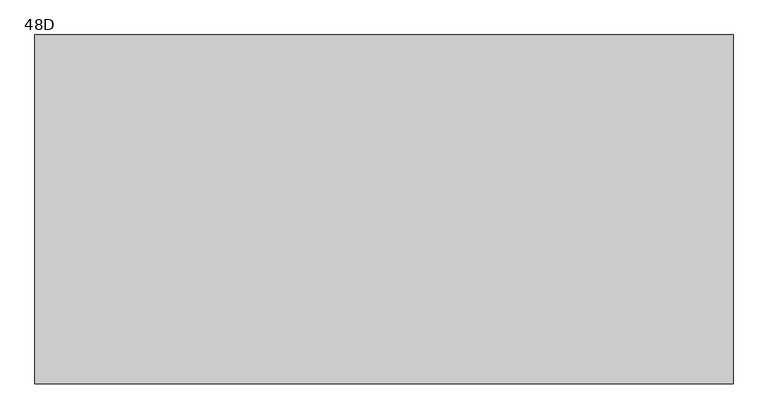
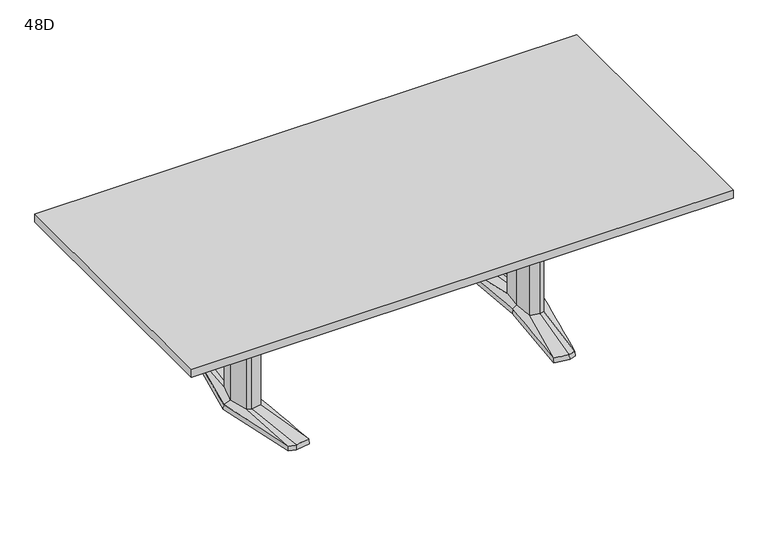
"""IFC4 building model written with IfcOpenShell, lengths in millimetres: furniture geometry, Coalesse_AM_Table_Conference_ETable2_Rectangular_96in_AluminiumBase : 48D."""

import ifcopenshell
import ifcopenshell.guid

model = None  # the IFC model being written
_history = None  # IfcOwnerHistory: only IFC2X3 demands one
_inside = {}  # id of a spatial element -> (the spatial element, [elements in it])
_under = {}  # id of a project, library or spatial element -> (it, [spatial elements below it])
_declared = {}  # id of a project -> (the project, [libraries it declares])
_typed = {}  # id of a type object -> (the type object, [elements of that type])
_made_of = {}  # id of a material, layer set ... -> (it, [elements and type objects made of it])


def new_model(schema):
    """Start an empty IFC model of exactly this schema.

    Asked for "IFC4X3", IfcOpenShell would pick the latest addendum, in which some entities
    have other attributes; the version numbers below select the first issue.
    IFC2X3 requires an IfcOwnerHistory on every rooted entity: one is made here for all.
    """
    global model, _history
    if schema == "IFC4X3":
        model = ifcopenshell.file(schema_version=(4, 3, 0, 0))
    else:
        model = ifcopenshell.file(schema=schema)
    _inside.clear()
    _under.clear()
    _declared.clear()
    _typed.clear()
    _made_of.clear()
    _history = None
    if model.schema == "IFC2X3":
        org = make("IfcOrganization", Name="unknown")
        user = make(
            "IfcPersonAndOrganization",
            ThePerson=make("IfcPerson", FamilyName="unknown"),
            TheOrganization=org,
        )
        app = make(
            "IfcApplication",
            ApplicationDeveloper=org,
            Version="unknown",
            ApplicationFullName="unknown",
            ApplicationIdentifier="unknown",
        )
        _history = make(
            "IfcOwnerHistory",
            OwningUser=user,
            OwningApplication=app,
            ChangeAction="ADDED",
            CreationDate=0,
        )
    return model


def make(cls, **values):
    """One entity of the class cls with the attributes given. An attribute that is None is left unset."""
    return model.create_entity(
        cls, **{name: value for name, value in values.items() if value is not None}
    )


def rooted(cls, **values):
    """An entity with a GlobalId (a new one), such as an element, a storey or a relation."""
    return make(cls, GlobalId=ifcopenshell.guid.new(), OwnerHistory=_history, **values)


def si_unit(unit_type, name, prefix=None):
    """IfcSIUnit, for example si_unit("LENGTHUNIT", "METRE", prefix="MILLI")."""
    return make("IfcSIUnit", UnitType=unit_type, Prefix=prefix, Name=name)


def assignment(units):
    """IfcUnitAssignment: the units of a project."""
    return None if units is None else make("IfcUnitAssignment", Units=units)


def point(xyz):
    """IfcCartesianPoint."""
    return None if xyz is None else make("IfcCartesianPoint", Coordinates=xyz)


def direction(xyz):
    """IfcDirection."""
    return None if xyz is None else make("IfcDirection", DirectionRatios=xyz)


def frame(location, z_axis=None, x_axis=None):
    """IfcAxis2Placement3D, a coordinate frame: its origin and axes. An axis left out is left unset."""
    return make(
        "IfcAxis2Placement3D",
        Location=point(location),
        Axis=direction(z_axis),
        RefDirection=direction(x_axis),
    )


def origin():
    """The frame at (0, 0, 0) with its axes left unset."""
    return frame((0.0, 0.0, 0.0))


def place(relative_to, where):
    """IfcLocalPlacement: puts the frame where relative to a parent placement (None: the world)."""
    return make(
        "IfcLocalPlacement", PlacementRelTo=relative_to, RelativePlacement=where
    )


def context(
    kind, dimensions, precision=None, world=None, true_north=None, identifier=None
):
    """IfcGeometricRepresentationContext, for example the 3D "Model" context."""
    return make(
        "IfcGeometricRepresentationContext",
        ContextIdentifier=identifier,
        ContextType=kind,
        CoordinateSpaceDimension=dimensions,
        Precision=precision,
        WorldCoordinateSystem=world,
        TrueNorth=true_north,
    )


def project(units=None, contexts=None):
    """IfcProject with its units and contexts."""
    return rooted(
        "IfcProject",
        Name="project",
        RepresentationContexts=contexts,
        UnitsInContext=assignment(units),
    )


def spatial(cls, under=None, at=None, **own):
    """A site, building, storey or space (cls), placed at a placement, below another one or the project."""
    s = rooted(cls, ObjectPlacement=at, **own)
    if under is not None:
        _under.setdefault(under.id(), (under, []))[1].append(s)
    return s


def polyline(points):
    """IfcPolyline through the points."""
    return make("IfcPolyline", Points=[point(p) for p in points])


def outline(outer, holes=None, kind="AREA"):
    """IfcArbitraryClosedProfileDef: a profile drawn as a closed curve; with holes, ...WithVoids."""
    if holes is None:
        return make("IfcArbitraryClosedProfileDef", ProfileType=kind, OuterCurve=outer)
    return make(
        "IfcArbitraryProfileDefWithVoids",
        ProfileType=kind,
        OuterCurve=outer,
        InnerCurves=holes,
    )


def extrude(swept, where, along, depth):
    """IfcExtrudedAreaSolid: the profile swept, set in the frame where, extruded along a direction by depth."""
    return make(
        "IfcExtrudedAreaSolid",
        SweptArea=swept,
        Position=where,
        ExtrudedDirection=direction(along),
        Depth=depth,
    )


def shape(context_of_items, identifier, shape_type, items):
    """IfcShapeRepresentation: the items that make up one representation, for example the "Body"."""
    return make(
        "IfcShapeRepresentation",
        ContextOfItems=context_of_items,
        RepresentationIdentifier=identifier,
        RepresentationType=shape_type,
        Items=items,
    )


def source(mapping_origin, context_of_items, identifier, shape_type, items):
    """IfcRepresentationMap: a shape defined once, which mapped items show again and again."""
    return make(
        "IfcRepresentationMap",
        MappingOrigin=mapping_origin,
        MappedRepresentation=shape(context_of_items, identifier, shape_type, items),
    )


def transform(
    local_origin,
    x_axis=None,
    y_axis=None,
    z_axis=None,
    scale=None,
    scale2=None,
    scale3=None,
    uniform=True,
):
    """IfcCartesianTransformationOperator3D, or its non-uniform kind. x_axis, y_axis, z_axis: its Axis1, 2, 3."""
    if uniform:
        return make(
            "IfcCartesianTransformationOperator3D",
            Axis1=direction(x_axis),
            Axis2=direction(y_axis),
            LocalOrigin=point(local_origin),
            Scale=scale,
            Axis3=direction(z_axis),
        )
    return make(
        "IfcCartesianTransformationOperator3DnonUniform",
        Axis1=direction(x_axis),
        Axis2=direction(y_axis),
        LocalOrigin=point(local_origin),
        Scale=scale,
        Axis3=direction(z_axis),
        Scale2=scale2,
        Scale3=scale3,
    )


def mapped(mapping_source, mapping_target):
    """IfcMappedItem: shows the shape of a source again, moved by a transform."""
    return make(
        "IfcMappedItem", MappingSource=mapping_source, MappingTarget=mapping_target
    )


def made_of(thing, what):
    """Note that an element or type object is made of a material, layer set ...; save() writes the relation."""
    if what is not None:
        _made_of.setdefault(what.id(), (what, []))[1].append(thing)
    return thing


def element(
    cls,
    number,
    at=None,
    inside=None,
    cuts=None,
    type_object=None,
    material=None,
    context=None,
    identifier="Body",
    shape_type=None,
    held_by="IfcProductDefinitionShape",
    body=None,
    shapes=None,
    **own,
):
    """One element of the class cls, such as IfcWall. Its Tag is "e" and its number.

    at: its placement. inside: the storey or other place that contains it. cuts: it is an
    opening in that element (IfcRelVoidsElement). A single representation is given by context,
    identifier, shape_type and body (its items); several are given by shapes. held_by: the class
    of the entity that holds the representations. save() writes the other relations.
    """
    e = rooted(cls, Tag="e%d" % number, ObjectPlacement=at, **own)
    if body is not None:
        shapes = [shape(context, identifier, shape_type, body)]
    if shapes is not None:
        e.Representation = make(held_by, Representations=shapes)
    if inside is not None:
        _inside.setdefault(inside.id(), (inside, []))[1].append(e)
    if cuts is not None:
        rooted(
            "IfcRelVoidsElement", RelatingBuildingElement=cuts, RelatedOpeningElement=e
        )
    if type_object is not None:
        _typed.setdefault(type_object.id(), (type_object, []))[1].append(e)
    return made_of(e, material)


def aggregate(whole, parts):
    """IfcRelAggregates: a whole, such as a stair, and the parts it consists of."""
    return rooted("IfcRelAggregates", RelatingObject=whole, RelatedObjects=parts)


def save(model, path):
    """Write the relations noted so far, then the file.

    IfcRelAggregates (storeys below a building ...), IfcRelContainedInSpatialStructure (elements
    in a storey), IfcRelDefinesByType, IfcRelAssociatesMaterial and IfcRelDeclares: one each for
    every whole, place, type object, material and project.
    """
    for whole, parts in _under.values():
        aggregate(whole, parts)
    for where, things in _inside.values():
        rooted(
            "IfcRelContainedInSpatialStructure",
            RelatedElements=things,
            RelatingStructure=where,
        )
    for kind, things in _typed.values():
        rooted("IfcRelDefinesByType", RelatedObjects=things, RelatingType=kind)
    for what, things in _made_of.values():
        rooted("IfcRelAssociatesMaterial", RelatedObjects=things, RelatingMaterial=what)
    for by, libraries in _declared.values():
        rooted("IfcRelDeclares", RelatingContext=by, RelatedDefinitions=libraries)
    model.write(path)


def plane_surface(at):
    """IfcPlane: the flat surface through the origin of the frame at, square to its z axis."""
    return make("IfcPlane", Position=at)


def spline_surface(u_degree, v_degree, points, u_multiplicities, v_multiplicities, u_knots, v_knots, weights=None):
    """IfcBSplineSurfaceWithKnots; with weights, IfcRationalBSplineSurfaceWithKnots. points: one row for each step in u."""
    own = dict(
        UDegree=u_degree,
        VDegree=v_degree,
        ControlPointsList=[[point(p) for p in row] for row in points],
        SurfaceForm="UNSPECIFIED",
        UClosed=False,
        VClosed=False,
        SelfIntersect=False,
        UMultiplicities=u_multiplicities,
        VMultiplicities=v_multiplicities,
        UKnots=u_knots,
        VKnots=v_knots,
        KnotSpec="UNSPECIFIED",
    )
    if weights is None:
        return make("IfcBSplineSurfaceWithKnots", **own)
    return make("IfcRationalBSplineSurfaceWithKnots", WeightsData=weights, **own)


def advanced_brep(points, edges, surfaces, faces):
    """IfcAdvancedBrep: a solid bounded by faces that lie on surfaces and meet in shared edges.

    An edge is (start, end): straight between two places in points (the first is 0);
    or (start, end, curve); or (start, end, curve, False) where it runs against its curve.
    A face is (place in surfaces, loops), or (place, loops, False) where it looks against
    its surface's normal. A loop lists edges by number (the first is 1), with a minus sign
    where the edge is run from its end to its start. The first loop is the outer one.
    """
    corners = [point(p) for p in points]
    vertices = [make("IfcVertexPoint", VertexGeometry=c) for c in corners]
    made = []
    for start, end, *more in edges:
        made.append(
            make(
                "IfcEdgeCurve",
                EdgeStart=vertices[start],
                EdgeEnd=vertices[end],
                EdgeGeometry=more[0] if more else make("IfcPolyline", Points=[corners[start], corners[end]]),
                SameSense=more[1] if len(more) > 1 else True,
            )
        )
    hull = []
    for where, loops, *sense in faces:
        bounds = []
        for j, loop in enumerate(loops):
            ring = [make("IfcOrientedEdge", EdgeElement=made[abs(k) - 1], Orientation=k > 0) for k in loop]
            bounds.append(
                make(
                    "IfcFaceOuterBound" if j == 0 else "IfcFaceBound",
                    Bound=make("IfcEdgeLoop", EdgeList=ring),
                    Orientation=True,
                )
            )
        hull.append(make("IfcAdvancedFace", Bounds=bounds, FaceSurface=surfaces[where], SameSense=sense[0] if sense else True))
    return make("IfcAdvancedBrep", Outer=make("IfcClosedShell", CfsFaces=hull))


def furniture_48d_2fcb32b7(model_context):
    return source(origin(), model_context, "Body", "SolidModel", [
        advanced_brep(
        [(614.8503471, -379.3768856, 25.4), (644.5756636, -371.5332654, 25.4), (668.2327243, -89.293702, 36.5125), (648.9795254, -94.605478, 36.5125), (606.0521001, -87.0529327, 36.5125), (551.7612538, -368.5071562, 25.4), (597.9364207, 0.0, 36.5125), (579.8389754, 0.3970149, 25.4), (606.0521001, 87.0529327, 36.5125), (551.7615002, 368.5172593, 25.4), (648.9795254, 94.605478, 36.5125), (614.8502233, 379.3769183, 25.4), (668.2327243, 89.293702, 36.5125), (644.7535458, 371.4863276, 25.4), (692.1595251, 0.0, 36.5125), (721.4851663, 0.0003516, 25.4), (578.2468742, 0.3968871, 3.175), (550.06875, 369.8367279, 3.175), (614.9213004, 381.0, 3.175), (646.1093245, 372.7704151, 3.175), (723.10625, 0.0, 3.175), (645.9309817, -372.8174744, 3.175), (614.9213004, -381.0, 3.175), (550.06875, -369.8264415, 3.175), (649.5979264, 107.6121478, 3.175), (594.3065451, 97.8843184, 3.175), (585.1810887, 0.0, 3.175), (594.3065451, -97.8843184, 3.175), (649.5979264, -107.6121478, 3.175), (678.6183473, -99.6056872, 3.175), (705.3083085, 0.0, 3.175), (678.6183473, 99.6056872, 3.175), (613.4286812, 346.9152841, 3.175), (557.7811371, 337.3364985, 3.175), (560.1889918, 324.8641942, 3.175), (612.8600644, 333.9306305, 3.175), (648.6725609, 324.4807859, 3.175), (647.5544526, 337.9105158, 3.175), (613.4286812, -346.9152841, 3.175), (647.5544526, -337.9105158, 3.175), (648.6725609, -324.4807859, 3.175), (612.8600644, -333.9306305, 3.175), (560.1889918, -324.8641942, 3.175), (557.7811371, -337.3364985, 3.175), (649.5979264, 107.6121478, 0.0), (678.6183473, 99.6056872, 0.0), (705.3083085, 0.0, 0.0), (678.6183473, -99.6056872, 0.0), (649.5979264, -107.6121478, 0.0), (594.3065451, -97.8843184, 0.0), (585.1810887, 0.0, 0.0), (594.3065451, 97.8843184, 0.0), (613.4286812, 346.9152841, 0.0), (647.5544526, 337.9105158, 0.0), (648.6725609, 324.4807859, 0.0), (612.8600644, 333.9306305, 0.0), (560.1889918, 324.8641942, 0.0), (557.7811371, 337.3364985, 0.0), (613.4286812, -346.9152841, 0.0), (557.7811371, -337.3364985, 0.0), (560.1889918, -324.8641942, 0.0), (612.8600644, -333.9306305, 0.0), (648.6725609, -324.4807859, 0.0), (647.5544526, -337.9105158, 0.0), (668.2327243, 89.293702, 698.5), (648.9795254, 94.605478, 698.5), (606.0521001, 87.0529327, 698.5), (597.9364207, 0.0, 698.5), (606.0521001, -87.0529327, 698.5), (648.9795254, -94.605478, 698.5), (668.2327243, -89.293702, 698.5), (692.1595251, 0.0, 698.5)],
        [
            (0, 1),
            (1, 2),
            (2, 3),
            (3, 0),
            (3, 4),
            (4, 5),
            (5, 0),
            (4, 6),
            (6, 7),
            (7, 5),
            (6, 8),
            (8, 9),
            (9, 7),
            (8, 10),
            (10, 11),
            (11, 9),
            (10, 12),
            (12, 13),
            (13, 11),
            (12, 14),
            (14, 15),
            (15, 13),
            (1, 15),
            (14, 2),
            (16, 17),
            (17, 18),
            (18, 19),
            (19, 20),
            (20, 21),
            (21, 22),
            (22, 23),
            (23, 16),
            (24, 25),
            (25, 26),
            (26, 27),
            (27, 28),
            (28, 29),
            (29, 30),
            (30, 31),
            (31, 24),
            (32, 33),
            (33, 34),
            (34, 35),
            (35, 36),
            (36, 37),
            (37, 32),
            (38, 39),
            (39, 40),
            (40, 41),
            (41, 42),
            (42, 43),
            (43, 38),
            (16, 7),
            (9, 17),
            (11, 18),
            (13, 19),
            (15, 20),
            (1, 21),
            (0, 22),
            (5, 23),
            (44, 45),
            (45, 46),
            (46, 47),
            (47, 48),
            (48, 49),
            (49, 50),
            (50, 51),
            (51, 44),
            (52, 53),
            (53, 54),
            (54, 55),
            (55, 56),
            (56, 57),
            (57, 52),
            (58, 59),
            (59, 60),
            (60, 61),
            (61, 62),
            (62, 63),
            (63, 58),
            (44, 24),
            (31, 45),
            (30, 46),
            (29, 47),
            (28, 48),
            (27, 49),
            (26, 50),
            (25, 51),
            (52, 32),
            (37, 53),
            (36, 54),
            (35, 55),
            (34, 56),
            (33, 57),
            (58, 38),
            (43, 59),
            (42, 60),
            (41, 61),
            (40, 62),
            (39, 63),
            (64, 65),
            (65, 66),
            (66, 67),
            (67, 68),
            (68, 69),
            (69, 70),
            (70, 71),
            (71, 64),
            (71, 14),
            (12, 64),
            (70, 2),
            (69, 3),
            (68, 4),
            (67, 6),
            (66, 8),
            (65, 10),
        ],
        [
            spline_surface(1, 1, [[(644.5756636, -371.5332654, 25.4), (614.8503471, -379.3768856, 25.4)], [(668.2327243, -89.293702, 36.5125), (648.9795254, -94.605478, 36.5125)]], [2, 2], [2, 2], [0.0, 1.0], [0.0, 1.0]),
            spline_surface(1, 1, [[(614.8503471, -379.3768856, 25.4), (551.7612538, -368.5071562, 25.4)], [(648.9795254, -94.605478, 36.5125), (606.0521001, -87.0529327, 36.5125)]], [2, 2], [2, 2], [0.0, 1.0], [0.0, 1.0]),
            spline_surface(1, 1, [[(551.7612538, -368.5071562, 25.4), (579.8389754, 0.3970149, 25.4)], [(606.0521001, -87.0529327, 36.5125), (597.9364207, 0.0, 36.5125)]], [2, 2], [2, 2], [0.0, 1.0], [0.0, 1.0]),
            spline_surface(1, 1, [[(579.8389754, 0.3970149, 25.4), (551.7615002, 368.5172593, 25.4)], [(597.9364207, 0.0, 36.5125), (606.0521001, 87.0529327, 36.5125)]], [2, 2], [2, 2], [0.0, 1.0], [0.0, 1.0]),
            spline_surface(1, 1, [[(551.7615002, 368.5172593, 25.4), (614.8502233, 379.3769183, 25.4)], [(606.0521001, 87.0529327, 36.5125), (648.9795254, 94.605478, 36.5125)]], [2, 2], [2, 2], [0.0, 1.0], [0.0, 1.0]),
            spline_surface(1, 1, [[(614.8502233, 379.3769183, 25.4), (644.7535458, 371.4863276, 25.4)], [(648.9795254, 94.605478, 36.5125), (668.2327243, 89.293702, 36.5125)]], [2, 2], [2, 2], [0.0, 1.0], [0.0, 1.0]),
            spline_surface(1, 1, [[(644.7535458, 371.4863276, 25.4), (721.4851663, 0.0003516, 25.4)], [(668.2327243, 89.293702, 36.5125), (692.1595251, 0.0, 36.5125)]], [2, 2], [2, 2], [0.0, 1.0], [0.0, 1.0]),
            spline_surface(1, 1, [[(721.4851663, 0.0003516, 25.4), (644.5756636, -371.5332654, 25.4)], [(692.1595251, 0.0, 36.5125), (668.2327243, -89.293702, 36.5125)]], [2, 2], [2, 2], [0.0, 1.0], [0.0, 1.0]),
            plane_surface(frame((615.4216914, 0.0450143, 3.175), z_axis=(0.0, 0.0, -1.0), x_axis=(-0.9669048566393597, -0.2551372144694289, 0.0))),
            plane_surface(frame((564.1578121, 185.1168075, 3.175), z_axis=(-0.9945699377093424, -0.07585840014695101, 0.0712470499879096), x_axis=(-0.07605167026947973, 0.9971038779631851, 0.0))),
            plane_surface(frame((582.4950252, 375.418364, 3.175), z_axis=(-0.1692071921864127, 0.9830019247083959, 0.07124704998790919), x_axis=(0.985506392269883, 0.16963829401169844, 0.0))),
            plane_surface(frame((630.5153124, 376.8852076, 3.175), z_axis=(0.2544888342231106, 0.9644476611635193, 0.07124704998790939), x_axis=(0.9669048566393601, -0.25513721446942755, 0.0))),
            plane_surface(frame((684.6077872, 186.3852076, 3.175), z_axis=(0.9768383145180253, 0.2017690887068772, 0.07124704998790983), x_axis=(0.20228315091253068, -0.9793270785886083, 0.0))),
            plane_surface(frame((684.5186158, -186.4087372, 3.175), z_axis=(0.9767507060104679, -0.20219276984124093, 0.07124704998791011), x_axis=(-0.2027079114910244, -0.9792392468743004, 0.0))),
            plane_surface(frame((630.426141, -376.9087372, 3.175), z_axis=(0.2544888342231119, -0.9644476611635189, 0.0712470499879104), x_axis=(-0.9669048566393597, -0.2551372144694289, 0.0))),
            plane_surface(frame((582.4950252, -375.4132207, 3.175), z_axis=(-0.16935861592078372, -0.982975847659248, 0.07124704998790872), x_axis=(-0.9854802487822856, 0.16979010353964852, 0.0))),
            plane_surface(frame((564.1578121, -184.7147772, 3.175), z_axis=(-0.9945820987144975, 0.07569878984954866, 0.07124704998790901), x_axis=(0.07589165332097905, 0.9971160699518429, 0.0))),
            plane_surface(frame((652.3571479, 106.8509046, 0.0), z_axis=(0.0, 0.0, -1.0000000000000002), x_axis=(-0.9639855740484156, 0.26595453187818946, 0.0))),
            plane_surface(frame((649.5979264, 107.6121478, 3.175), z_axis=(0.26595453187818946, 0.9639855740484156, 0.0), x_axis=(0.0, 0.0, -1.0))),
            plane_surface(frame((678.6183473, 99.6056872, 3.175), z_axis=(0.9659241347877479, 0.2588253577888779, 0.0), x_axis=(0.0, 0.0, -1.0))),
            plane_surface(frame((705.3083085, 0.0, 3.175), z_axis=(0.9659241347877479, -0.2588253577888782, 0.0), x_axis=(0.0, 0.0, -1.0))),
            plane_surface(frame((678.6183473, -99.6056872, 3.175), z_axis=(0.26595453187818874, -0.9639855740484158, 0.0), x_axis=(0.0, 0.0, -1.0))),
            plane_surface(frame((649.5979264, -107.6121478, 3.175), z_axis=(-0.17327617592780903, -0.9848732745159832, 0.0), x_axis=(0.0, 0.0, -1.0))),
            plane_surface(frame((594.3065451, -97.8843184, 3.175), z_axis=(-0.9956824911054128, -0.0928244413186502, 0.0), x_axis=(0.0, 0.0, -1.0))),
            plane_surface(frame((585.1810887, 0.0, 3.175), z_axis=(-0.9956824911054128, 0.09282444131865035, 0.0), x_axis=(0.0, 0.0, -1.0))),
            plane_surface(frame((594.3065451, 97.8843184, 3.175), z_axis=(-0.17327617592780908, 0.984873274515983, 0.0), x_axis=(0.0, 0.0, -1.0))),
            plane_surface(frame((613.4286812, 346.9152841, 3.175), z_axis=(0.25513721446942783, 0.9669048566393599, 0.0), x_axis=(0.0, 0.0, -1.0))),
            plane_surface(frame((647.5544526, 337.9105158, 3.175), z_axis=(0.9965521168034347, 0.0829691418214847, 0.0), x_axis=(0.0, 0.0, -1.0))),
            plane_surface(frame((648.6725609, 324.4807859, 3.175), z_axis=(-0.25513721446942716, -0.9669048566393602, 0.0), x_axis=(0.0, 0.0, -1.0))),
            plane_surface(frame((612.8600644, 333.9306305, 3.175), z_axis=(0.16963829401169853, -0.985506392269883, 0.0), x_axis=(0.0, 0.0, -1.0))),
            plane_surface(frame((560.1889918, 324.8641942, 3.175), z_axis=(-0.9818699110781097, -0.18955600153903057, 0.0), x_axis=(0.0, 0.0, -1.0))),
            plane_surface(frame((557.7811371, 337.3364985, 3.175), z_axis=(-0.16963829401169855, 0.9855063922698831, 0.0), x_axis=(0.0, 0.0, -1.0))),
            plane_surface(frame((613.4286812, -346.9152841, 3.175), z_axis=(-0.1696382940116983, -0.9855063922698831, 0.0), x_axis=(0.0, 0.0, -1.0))),
            plane_surface(frame((557.7811371, -337.3364985, 3.175), z_axis=(-0.9818699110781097, 0.18955600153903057, 0.0), x_axis=(0.0, 0.0, -1.0))),
            plane_surface(frame((560.1889918, -324.8641942, 3.175), z_axis=(0.16963829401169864, 0.985506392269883, 0.0), x_axis=(0.0, 0.0, -1.0))),
            plane_surface(frame((612.8600644, -333.9306305, 3.175), z_axis=(-0.2551372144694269, 0.9669048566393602, 0.0), x_axis=(0.0, 0.0, -1.0))),
            plane_surface(frame((648.6725609, -324.4807859, 3.175), z_axis=(0.9965521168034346, -0.0829691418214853, 0.0), x_axis=(0.0, 0.0, -1.0))),
            plane_surface(frame((647.5544526, -337.9105158, 3.175), z_axis=(0.2551372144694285, -0.9669048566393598, 0.0), x_axis=(0.0, 0.0, -1.0))),
            plane_surface(frame((692.1595251, 0.0, 698.5), z_axis=(0.0, 0.0, 1.0), x_axis=(0.25882535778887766, -0.965924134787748, 0.0))),
            plane_surface(frame((668.2327243, 89.293702, 698.5), z_axis=(0.965924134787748, 0.25882535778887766, 0.0), x_axis=(0.0, 0.0, -1.0))),
            plane_surface(frame((692.1595251, 0.0, 698.5), z_axis=(0.965924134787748, -0.2588253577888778, 0.0), x_axis=(0.0, 0.0, -1.0))),
            plane_surface(frame((668.2327243, -89.293702, 698.5), z_axis=(0.2659545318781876, -0.963985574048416, 0.0), x_axis=(0.0, 0.0, -1.0))),
            plane_surface(frame((648.9795254, -94.605478, 698.5), z_axis=(-0.1732761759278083, -0.9848732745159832, 0.0), x_axis=(0.0, 0.0, -1.0))),
            plane_surface(frame((606.0521001, -87.0529327, 698.5), z_axis=(-0.9956824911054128, -0.0928244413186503, 0.0), x_axis=(0.0, 0.0, -1.0))),
            plane_surface(frame((597.9364207, 0.0, 698.5), z_axis=(-0.9956824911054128, 0.09282444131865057, 0.0), x_axis=(0.0, 0.0, -1.0))),
            plane_surface(frame((606.0521001, 87.0529327, 698.5), z_axis=(-0.17327617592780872, 0.9848732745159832, 0.0), x_axis=(0.0, 0.0, -1.0))),
            plane_surface(frame((648.9795254, 94.605478, 698.5), z_axis=(0.26595453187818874, 0.9639855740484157, 0.0), x_axis=(0.0, 0.0, -1.0))),
        ],
        [
            (0, [[1, 2, 3, 4]]),
            (1, [[5, 6, 7, -4]]),
            (2, [[8, 9, 10, -6]]),
            (3, [[11, 12, 13, -9]]),
            (4, [[14, 15, 16, -12]]),
            (5, [[17, 18, 19, -15]]),
            (6, [[20, 21, 22, -18]]),
            (7, [[23, -21, 24, -2]]),
            (8, [[25, 26, 27, 28, 29, 30, 31, 32], [33, 34, 35, 36, 37, 38, 39, 40], [41, 42, 43, 44, 45, 46], [47, 48, 49, 50, 51, 52]]),
            (9, [[53, -13, 54, -25]]),
            (10, [[-54, -16, 55, -26]]),
            (11, [[-55, -19, 56, -27]]),
            (12, [[-56, -22, 57, -28]]),
            (13, [[-57, -23, 58, -29]]),
            (14, [[-58, -1, 59, -30]]),
            (15, [[-59, -7, 60, -31]]),
            (16, [[-60, -10, -53, -32]]),
            (17, [[61, 62, 63, 64, 65, 66, 67, 68]]),
            (17, [[69, 70, 71, 72, 73, 74]]),
            (17, [[75, 76, 77, 78, 79, 80]]),
            (18, [[81, -40, 82, -61]]),
            (19, [[-82, -39, 83, -62]]),
            (20, [[-83, -38, 84, -63]]),
            (21, [[-84, -37, 85, -64]]),
            (22, [[-85, -36, 86, -65]]),
            (23, [[-86, -35, 87, -66]]),
            (24, [[-87, -34, 88, -67]]),
            (25, [[-88, -33, -81, -68]]),
            (26, [[89, -46, 90, -69]]),
            (27, [[-90, -45, 91, -70]]),
            (28, [[-91, -44, 92, -71]]),
            (29, [[-92, -43, 93, -72]]),
            (30, [[-93, -42, 94, -73]]),
            (31, [[-94, -41, -89, -74]]),
            (32, [[95, -52, 96, -75]]),
            (33, [[-96, -51, 97, -76]]),
            (34, [[-97, -50, 98, -77]]),
            (35, [[-98, -49, 99, -78]]),
            (36, [[-99, -48, 100, -79]]),
            (37, [[-100, -47, -95, -80]]),
            (38, [[101, 102, 103, 104, 105, 106, 107, 108]]),
            (39, [[109, -20, 110, -108]]),
            (40, [[111, -24, -109, -107]]),
            (41, [[112, -3, -111, -106]]),
            (42, [[113, -5, -112, -105]]),
            (43, [[114, -8, -113, -104]]),
            (44, [[115, -11, -114, -103]]),
            (45, [[116, -14, -115, -102]]),
            (46, [[-110, -17, -116, -101]]),
        ],
    ),
        advanced_brep(
        [(-614.8503471, -379.3768856, 25.4), (-648.9795254, -94.605478, 36.5125), (-668.2327243, -89.293702, 36.5125), (-644.5756636, -371.5332654, 25.4), (-551.7612538, -368.5071562, 25.4), (-606.0521001, -87.0529327, 36.5125), (-579.8389754, 0.3970149, 25.4), (-597.9364207, 0.0, 36.5125), (-551.7615002, 368.5172593, 25.4), (-606.0521001, 87.0529327, 36.5125), (-614.8502233, 379.3769183, 25.4), (-648.9795254, 94.605478, 36.5125), (-644.7535458, 371.4863276, 25.4), (-668.2327243, 89.293702, 36.5125), (-721.4851663, 0.0003516, 25.4), (-692.1595251, 0.0, 36.5125), (-578.2468742, 0.3968871, 3.175), (-550.06875, -369.8264415, 3.175), (-614.9213004, -381.0, 3.175), (-645.9309817, -372.8174744, 3.175), (-723.10625, 0.0, 3.175), (-646.1093245, 372.7704151, 3.175), (-614.9213004, 381.0, 3.175), (-550.06875, 369.8367279, 3.175), (-649.5979264, 107.6121478, 3.175), (-678.6183473, 99.6056872, 3.175), (-705.3083085, 0.0, 3.175), (-678.6183473, -99.6056872, 3.175), (-649.5979264, -107.6121478, 3.175), (-594.3065451, -97.8843184, 3.175), (-585.1810887, 0.0, 3.175), (-594.3065451, 97.8843184, 3.175), (-613.4286812, 346.9152841, 3.175), (-647.5544526, 337.9105158, 3.175), (-648.6725609, 324.4807859, 3.175), (-612.8600644, 333.9306305, 3.175), (-560.1889918, 324.8641942, 3.175), (-557.7811371, 337.3364985, 3.175), (-613.4286812, -346.9152841, 3.175), (-557.7811371, -337.3364985, 3.175), (-560.1889918, -324.8641942, 3.175), (-612.8600644, -333.9306305, 3.175), (-648.6725609, -324.4807859, 3.175), (-647.5544526, -337.9105158, 3.175), (-649.5979264, 107.6121478, 0.0), (-594.3065451, 97.8843184, 0.0), (-585.1810887, 0.0, 0.0), (-594.3065451, -97.8843184, 0.0), (-649.5979264, -107.6121478, 0.0), (-678.6183473, -99.6056872, 0.0), (-705.3083085, 0.0, 0.0), (-678.6183473, 99.6056872, 0.0), (-613.4286812, 346.9152841, 0.0), (-557.7811371, 337.3364985, 0.0), (-560.1889918, 324.8641942, 0.0), (-612.8600644, 333.9306305, 0.0), (-648.6725609, 324.4807859, 0.0), (-647.5544526, 337.9105158, 0.0), (-613.4286812, -346.9152841, 0.0), (-647.5544526, -337.9105158, 0.0), (-648.6725609, -324.4807859, 0.0), (-612.8600644, -333.9306305, 0.0), (-560.1889918, -324.8641942, 0.0), (-557.7811371, -337.3364985, 0.0), (-668.2327243, 89.293702, 698.5), (-692.1595251, 0.0, 698.5), (-668.2327243, -89.293702, 698.5), (-648.9795254, -94.605478, 698.5), (-606.0521001, -87.0529327, 698.5), (-597.9364207, 0.0, 698.5), (-606.0521001, 87.0529327, 698.5), (-648.9795254, 94.605478, 698.5)],
        [
            (0, 1),
            (1, 2),
            (2, 3),
            (3, 0),
            (0, 4),
            (4, 5),
            (5, 1),
            (4, 6),
            (6, 7),
            (7, 5),
            (6, 8),
            (8, 9),
            (9, 7),
            (8, 10),
            (10, 11),
            (11, 9),
            (10, 12),
            (12, 13),
            (13, 11),
            (12, 14),
            (14, 15),
            (15, 13),
            (2, 15),
            (14, 3),
            (16, 17),
            (17, 18),
            (18, 19),
            (19, 20),
            (20, 21),
            (21, 22),
            (22, 23),
            (23, 16),
            (24, 25),
            (25, 26),
            (26, 27),
            (27, 28),
            (28, 29),
            (29, 30),
            (30, 31),
            (31, 24),
            (32, 33),
            (33, 34),
            (34, 35),
            (35, 36),
            (36, 37),
            (37, 32),
            (38, 39),
            (39, 40),
            (40, 41),
            (41, 42),
            (42, 43),
            (43, 38),
            (23, 8),
            (6, 16),
            (22, 10),
            (21, 12),
            (20, 14),
            (19, 3),
            (18, 0),
            (17, 4),
            (44, 45),
            (45, 46),
            (46, 47),
            (47, 48),
            (48, 49),
            (49, 50),
            (50, 51),
            (51, 44),
            (52, 53),
            (53, 54),
            (54, 55),
            (55, 56),
            (56, 57),
            (57, 52),
            (58, 59),
            (59, 60),
            (60, 61),
            (61, 62),
            (62, 63),
            (63, 58),
            (51, 25),
            (24, 44),
            (50, 26),
            (49, 27),
            (48, 28),
            (47, 29),
            (46, 30),
            (45, 31),
            (57, 33),
            (32, 52),
            (56, 34),
            (55, 35),
            (54, 36),
            (53, 37),
            (63, 39),
            (38, 58),
            (62, 40),
            (61, 41),
            (60, 42),
            (59, 43),
            (64, 65),
            (65, 66),
            (66, 67),
            (67, 68),
            (68, 69),
            (69, 70),
            (70, 71),
            (71, 64),
            (64, 13),
            (15, 65),
            (2, 66),
            (1, 67),
            (5, 68),
            (7, 69),
            (9, 70),
            (11, 71),
        ],
        [
            spline_surface(1, 1, [[(-644.5756636, -371.5332654, 25.4), (-668.2327243, -89.293702, 36.5125)], [(-614.8503471, -379.3768856, 25.4), (-648.9795254, -94.605478, 36.5125)]], [2, 2], [2, 2], [0.0, 1.0], [0.0, 1.0]),
            spline_surface(1, 1, [[(-614.8503471, -379.3768856, 25.4), (-648.9795254, -94.605478, 36.5125)], [(-551.7612538, -368.5071562, 25.4), (-606.0521001, -87.0529327, 36.5125)]], [2, 2], [2, 2], [0.0, 1.0], [0.0, 1.0]),
            spline_surface(1, 1, [[(-551.7612538, -368.5071562, 25.4), (-606.0521001, -87.0529327, 36.5125)], [(-579.8389754, 0.3970149, 25.4), (-597.9364207, 0.0, 36.5125)]], [2, 2], [2, 2], [0.0, 1.0], [0.0, 1.0]),
            spline_surface(1, 1, [[(-579.8389754, 0.3970149, 25.4), (-597.9364207, 0.0, 36.5125)], [(-551.7615002, 368.5172593, 25.4), (-606.0521001, 87.0529327, 36.5125)]], [2, 2], [2, 2], [0.0, 1.0], [0.0, 1.0]),
            spline_surface(1, 1, [[(-551.7615002, 368.5172593, 25.4), (-606.0521001, 87.0529327, 36.5125)], [(-614.8502233, 379.3769183, 25.4), (-648.9795254, 94.605478, 36.5125)]], [2, 2], [2, 2], [0.0, 1.0], [0.0, 1.0]),
            spline_surface(1, 1, [[(-614.8502233, 379.3769183, 25.4), (-648.9795254, 94.605478, 36.5125)], [(-644.7535458, 371.4863276, 25.4), (-668.2327243, 89.293702, 36.5125)]], [2, 2], [2, 2], [0.0, 1.0], [0.0, 1.0]),
            spline_surface(1, 1, [[(-644.7535458, 371.4863276, 25.4), (-668.2327243, 89.293702, 36.5125)], [(-721.4851663, 0.0003516, 25.4), (-692.1595251, 0.0, 36.5125)]], [2, 2], [2, 2], [0.0, 1.0], [0.0, 1.0]),
            spline_surface(1, 1, [[(-721.4851663, 0.0003516, 25.4), (-692.1595251, 0.0, 36.5125)], [(-644.5756636, -371.5332654, 25.4), (-668.2327243, -89.293702, 36.5125)]], [2, 2], [2, 2], [0.0, 1.0], [0.0, 1.0]),
            plane_surface(frame((-615.4216914, 0.0450143, 3.175), z_axis=(0.0, 0.0, -1.0), x_axis=(0.9669048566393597, -0.2551372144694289, 0.0))),
            plane_surface(frame((-564.1578121, 185.1168075, 3.175), z_axis=(0.9945699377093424, -0.07585840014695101, 0.0712470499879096), x_axis=(0.07605167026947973, 0.9971038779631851, 0.0))),
            plane_surface(frame((-582.4950252, 375.418364, 3.175), z_axis=(0.1692071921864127, 0.9830019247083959, 0.07124704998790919), x_axis=(-0.985506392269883, 0.16963829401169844, 0.0))),
            plane_surface(frame((-630.5153124, 376.8852076, 3.175), z_axis=(-0.2544888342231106, 0.9644476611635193, 0.07124704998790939), x_axis=(-0.9669048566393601, -0.25513721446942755, 0.0))),
            plane_surface(frame((-684.6077872, 186.3852076, 3.175), z_axis=(-0.9768383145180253, 0.2017690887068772, 0.07124704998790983), x_axis=(-0.20228315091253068, -0.9793270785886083, 0.0))),
            plane_surface(frame((-684.5186158, -186.4087372, 3.175), z_axis=(-0.9767507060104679, -0.20219276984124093, 0.07124704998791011), x_axis=(0.2027079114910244, -0.9792392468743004, 0.0))),
            plane_surface(frame((-630.426141, -376.9087372, 3.175), z_axis=(-0.2544888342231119, -0.9644476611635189, 0.0712470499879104), x_axis=(0.9669048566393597, -0.2551372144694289, 0.0))),
            plane_surface(frame((-582.4950252, -375.4132207, 3.175), z_axis=(0.16935861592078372, -0.982975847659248, 0.07124704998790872), x_axis=(0.9854802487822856, 0.16979010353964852, 0.0))),
            plane_surface(frame((-564.1578121, -184.7147772, 3.175), z_axis=(0.9945820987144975, 0.07569878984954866, 0.07124704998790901), x_axis=(-0.07589165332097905, 0.9971160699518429, 0.0))),
            plane_surface(frame((-652.3571479, 106.8509046, 0.0), z_axis=(0.0, 0.0, -1.0000000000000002), x_axis=(0.9639855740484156, 0.26595453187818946, 0.0))),
            plane_surface(frame((-649.5979264, 107.6121478, 3.175), z_axis=(-0.26595453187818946, 0.9639855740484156, 0.0), x_axis=(0.0, 0.0, -1.0))),
            plane_surface(frame((-678.6183473, 99.6056872, 3.175), z_axis=(-0.9659241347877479, 0.2588253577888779, 0.0), x_axis=(0.0, 0.0, -1.0))),
            plane_surface(frame((-705.3083085, 0.0, 3.175), z_axis=(-0.9659241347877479, -0.2588253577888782, 0.0), x_axis=(0.0, 0.0, -1.0))),
            plane_surface(frame((-678.6183473, -99.6056872, 3.175), z_axis=(-0.26595453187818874, -0.9639855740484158, 0.0), x_axis=(0.0, 0.0, -1.0))),
            plane_surface(frame((-649.5979264, -107.6121478, 3.175), z_axis=(0.17327617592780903, -0.9848732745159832, 0.0), x_axis=(0.0, 0.0, -1.0))),
            plane_surface(frame((-594.3065451, -97.8843184, 3.175), z_axis=(0.9956824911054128, -0.0928244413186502, 0.0), x_axis=(0.0, 0.0, -1.0))),
            plane_surface(frame((-585.1810887, 0.0, 3.175), z_axis=(0.9956824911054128, 0.09282444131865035, 0.0), x_axis=(0.0, 0.0, -1.0))),
            plane_surface(frame((-594.3065451, 97.8843184, 3.175), z_axis=(0.17327617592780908, 0.984873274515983, 0.0), x_axis=(0.0, 0.0, -1.0))),
            plane_surface(frame((-613.4286812, 346.9152841, 3.175), z_axis=(-0.25513721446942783, 0.9669048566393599, 0.0), x_axis=(0.0, 0.0, -1.0))),
            plane_surface(frame((-647.5544526, 337.9105158, 3.175), z_axis=(-0.9965521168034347, 0.0829691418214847, 0.0), x_axis=(0.0, 0.0, -1.0))),
            plane_surface(frame((-648.6725609, 324.4807859, 3.175), z_axis=(0.25513721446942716, -0.9669048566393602, 0.0), x_axis=(0.0, 0.0, -1.0))),
            plane_surface(frame((-612.8600644, 333.9306305, 3.175), z_axis=(-0.16963829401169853, -0.985506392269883, 0.0), x_axis=(0.0, 0.0, -1.0))),
            plane_surface(frame((-560.1889918, 324.8641942, 3.175), z_axis=(0.9818699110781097, -0.18955600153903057, 0.0), x_axis=(0.0, 0.0, -1.0))),
            plane_surface(frame((-557.7811371, 337.3364985, 3.175), z_axis=(0.16963829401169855, 0.9855063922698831, 0.0), x_axis=(0.0, 0.0, -1.0))),
            plane_surface(frame((-613.4286812, -346.9152841, 3.175), z_axis=(0.1696382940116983, -0.9855063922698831, 0.0), x_axis=(0.0, 0.0, -1.0))),
            plane_surface(frame((-557.7811371, -337.3364985, 3.175), z_axis=(0.9818699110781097, 0.18955600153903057, 0.0), x_axis=(0.0, 0.0, -1.0))),
            plane_surface(frame((-560.1889918, -324.8641942, 3.175), z_axis=(-0.16963829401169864, 0.985506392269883, 0.0), x_axis=(0.0, 0.0, -1.0))),
            plane_surface(frame((-612.8600644, -333.9306305, 3.175), z_axis=(0.2551372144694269, 0.9669048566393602, 0.0), x_axis=(0.0, 0.0, -1.0))),
            plane_surface(frame((-648.6725609, -324.4807859, 3.175), z_axis=(-0.9965521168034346, -0.0829691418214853, 0.0), x_axis=(0.0, 0.0, -1.0))),
            plane_surface(frame((-647.5544526, -337.9105158, 3.175), z_axis=(-0.2551372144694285, -0.9669048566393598, 0.0), x_axis=(0.0, 0.0, -1.0))),
            plane_surface(frame((-692.1595251, 0.0, 698.5), z_axis=(0.0, 0.0, 1.0), x_axis=(-0.25882535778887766, -0.965924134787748, 0.0))),
            plane_surface(frame((-668.2327243, 89.293702, 698.5), z_axis=(-0.965924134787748, 0.25882535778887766, 0.0), x_axis=(0.0, 0.0, -1.0))),
            plane_surface(frame((-692.1595251, 0.0, 698.5), z_axis=(-0.965924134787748, -0.2588253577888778, 0.0), x_axis=(0.0, 0.0, -1.0))),
            plane_surface(frame((-668.2327243, -89.293702, 698.5), z_axis=(-0.2659545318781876, -0.963985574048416, 0.0), x_axis=(0.0, 0.0, -1.0))),
            plane_surface(frame((-648.9795254, -94.605478, 698.5), z_axis=(0.1732761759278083, -0.9848732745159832, 0.0), x_axis=(0.0, 0.0, -1.0))),
            plane_surface(frame((-606.0521001, -87.0529327, 698.5), z_axis=(0.9956824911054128, -0.0928244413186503, 0.0), x_axis=(0.0, 0.0, -1.0))),
            plane_surface(frame((-597.9364207, 0.0, 698.5), z_axis=(0.9956824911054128, 0.09282444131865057, 0.0), x_axis=(0.0, 0.0, -1.0))),
            plane_surface(frame((-606.0521001, 87.0529327, 698.5), z_axis=(0.17327617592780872, 0.9848732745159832, 0.0), x_axis=(0.0, 0.0, -1.0))),
            plane_surface(frame((-648.9795254, 94.605478, 698.5), z_axis=(-0.26595453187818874, 0.9639855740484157, 0.0), x_axis=(0.0, 0.0, -1.0))),
        ],
        [
            (0, [[1, 2, 3, 4]]),
            (1, [[-1, 5, 6, 7]]),
            (2, [[-6, 8, 9, 10]]),
            (3, [[-9, 11, 12, 13]]),
            (4, [[-12, 14, 15, 16]]),
            (5, [[-15, 17, 18, 19]]),
            (6, [[-18, 20, 21, 22]]),
            (7, [[-3, 23, -21, 24]]),
            (8, [[25, 26, 27, 28, 29, 30, 31, 32], [33, 34, 35, 36, 37, 38, 39, 40], [41, 42, 43, 44, 45, 46], [47, 48, 49, 50, 51, 52]]),
            (9, [[-32, 53, -11, 54]]),
            (10, [[-31, 55, -14, -53]]),
            (11, [[-30, 56, -17, -55]]),
            (12, [[-29, 57, -20, -56]]),
            (13, [[-28, 58, -24, -57]]),
            (14, [[-27, 59, -4, -58]]),
            (15, [[-26, 60, -5, -59]]),
            (16, [[-25, -54, -8, -60]]),
            (17, [[61, 62, 63, 64, 65, 66, 67, 68]]),
            (17, [[69, 70, 71, 72, 73, 74]]),
            (17, [[75, 76, 77, 78, 79, 80]]),
            (18, [[-68, 81, -33, 82]]),
            (19, [[-67, 83, -34, -81]]),
            (20, [[-66, 84, -35, -83]]),
            (21, [[-65, 85, -36, -84]]),
            (22, [[-64, 86, -37, -85]]),
            (23, [[-63, 87, -38, -86]]),
            (24, [[-62, 88, -39, -87]]),
            (25, [[-61, -82, -40, -88]]),
            (26, [[-74, 89, -41, 90]]),
            (27, [[-73, 91, -42, -89]]),
            (28, [[-72, 92, -43, -91]]),
            (29, [[-71, 93, -44, -92]]),
            (30, [[-70, 94, -45, -93]]),
            (31, [[-69, -90, -46, -94]]),
            (32, [[-80, 95, -47, 96]]),
            (33, [[-79, 97, -48, -95]]),
            (34, [[-78, 98, -49, -97]]),
            (35, [[-77, 99, -50, -98]]),
            (36, [[-76, 100, -51, -99]]),
            (37, [[-75, -96, -52, -100]]),
            (38, [[101, 102, 103, 104, 105, 106, 107, 108]]),
            (39, [[-101, 109, -22, 110]]),
            (40, [[-102, -110, -23, 111]]),
            (41, [[-103, -111, -2, 112]]),
            (42, [[-104, -112, -7, 113]]),
            (43, [[-105, -113, -10, 114]]),
            (44, [[-106, -114, -13, 115]]),
            (45, [[-107, -115, -16, 116]]),
            (46, [[-108, -116, -19, -109]]),
        ],
    ),
        extrude(outline(polyline([(96.8375, 698.5), (103.1875, 698.5), (103.1875, 476.25), (-103.1875, 476.25), (-103.1875, 698.5), (-96.8375, 698.5), (-96.8375, 482.6), (96.8375, 482.6), (96.8375, 698.5)])), frame((-597.9364207, 0.0, 0.0), z_axis=(1.0, 0.0, 0.0), x_axis=(0.0, 1.0, 0.0)), (0.0, 0.0, 1.0), 1195.8728415),
        extrude(outline(polyline([(-1219.2, -609.6), (-1219.2, 609.6), (1219.2, 609.6), (1219.2, -609.6), (-1219.2, -609.6)])), frame((0.0, 0.0, 698.5), z_axis=(0.0, 0.0, 1.0), x_axis=(1.0, 0.0, 0.0)), (0.0, 0.0, 1.0), 38.1),
    ])


if __name__ == "__main__":
    model = new_model("IFC4")
    model_context = context("Model", 3, world=origin())
    ifc_project = project(units=[si_unit("LENGTHUNIT", "METRE", prefix="MILLI")], contexts=[model_context])
    site = spatial("IfcSite", under=ifc_project)
    building = spatial("IfcBuilding", under=site)
    placement = place(None, origin())
    furniture_48d_shape = furniture_48d_2fcb32b7(model_context)
    element("IfcFurniture", 1, ObjectType="Coalesse_AM_Table_Conference_ETable2_Rectangular_96in_AluminiumBase : 48D", at=placement, inside=building, context=model_context, shape_type="MappedRepresentation", body=[
        mapped(furniture_48d_shape, transform((0.0, 0.0, 0.0), x_axis=(1.0, 0.0, 0.0), y_axis=(0.0, 1.0, 0.0), z_axis=(0.0, 0.0, 1.0))),
    ])
    save(model, "model.ifc")
